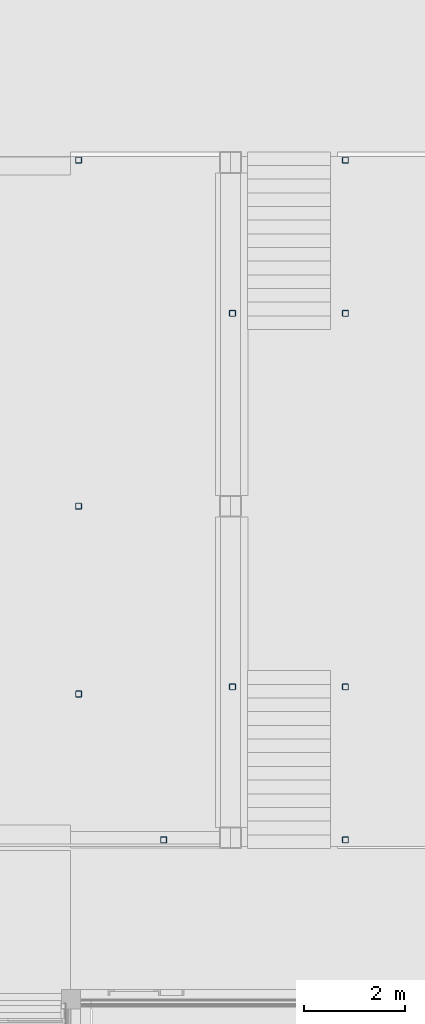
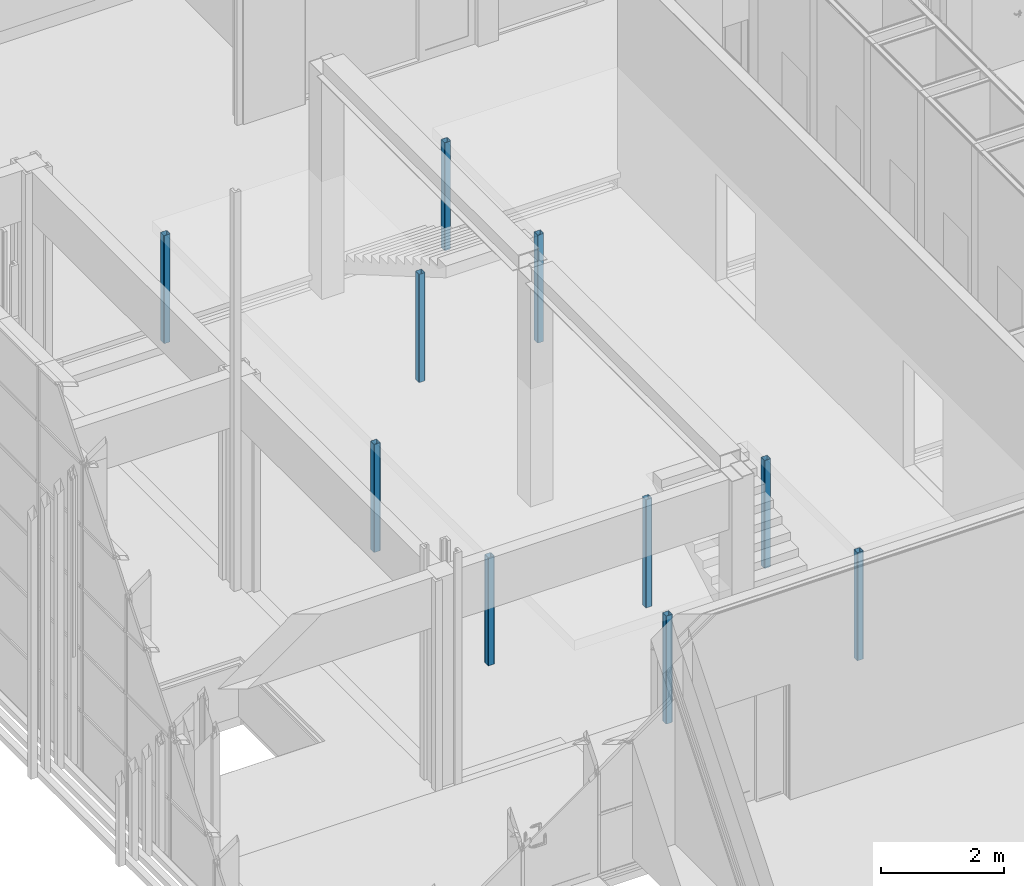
# One storey, part 65 of 260: 10 columns.
"""IFC2X3 building model written with IfcOpenShell, lengths in millimetres."""

from ifc_helpers import new_model, entity, si_unit, converted_unit, derived_unit, money_unit, direction, frame, origin_with_axes, place, context, subcontext, project, spatial, faceted_brep, material, type_object, element, save


model = new_model("IFC2X3")

# Units and contexts
model_context = context("Model", 3, precision=0.01, world=origin_with_axes(), true_north=direction((0.0, 1.0)))
body_context = subcontext(model_context, "Body", "Model", "MODEL_VIEW")
ifc_project = project(units=[si_unit("LENGTHUNIT", "METRE", prefix="MILLI"), si_unit("AREAUNIT", "SQUARE_METRE"), si_unit("VOLUMEUNIT", "CUBIC_METRE"), converted_unit("PLANEANGLEUNIT", "DEGREE", entity("IfcPlaneAngleMeasure", 0.0174532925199), si_unit("PLANEANGLEUNIT", "RADIAN"), dimensions=[0, 0, 0, 0, 0, 0, 0]), money_unit("EUR"), converted_unit("TIMEUNIT", "Year", entity("IfcTimeMeasure", 31556926.0), si_unit("TIMEUNIT", "SECOND"), dimensions=[0, 0, 1, 0, 0, 0, 0]), si_unit("MASSUNIT", "GRAM", prefix="KILO"), si_unit("THERMODYNAMICTEMPERATUREUNIT", "DEGREE_CELSIUS"), si_unit("LUMINOUSINTENSITYUNIT", "LUMEN"), si_unit("ENERGYUNIT", "JOULE", prefix="MEGA"), derived_unit("THERMALCONDUCTANCEUNIT", [(si_unit("POWERUNIT", "WATT"), 1), (si_unit("LENGTHUNIT", "METRE"), -1), (si_unit("THERMODYNAMICTEMPERATUREUNIT", "KELVIN"), -1)]), derived_unit("SPECIFICHEATCAPACITYUNIT", [(si_unit("ENERGYUNIT", "JOULE"), 1), (si_unit("MASSUNIT", "GRAM", prefix="KILO"), -1), (si_unit("THERMODYNAMICTEMPERATUREUNIT", "KELVIN"), -1)]), derived_unit("MASSDENSITYUNIT", [(si_unit("MASSUNIT", "GRAM", prefix="KILO"), 1), (si_unit("VOLUMEUNIT", "CUBIC_METRE"), -1)])], contexts=[model_context])

# Site, building, storey
site_placement = place(None, origin_with_axes())
site = spatial("IfcSite", under=ifc_project, at=site_placement, Name="Kolde pst 67a", CompositionType="ELEMENT")
building_placement = place(site_placement, origin_with_axes())
building = spatial("IfcBuilding", under=site, at=building_placement, Name="Riigigümnaasium", CompositionType="ELEMENT")
storey_placement = place(building_placement, origin_with_axes())
storey = spatial("IfcBuildingStorey", under=building, at=storey_placement, Name="1. korrus", CompositionType="ELEMENT", Elevation=0.0)

# Columns
ifc_material = material(Name="Teras, S355")
column_type = type_object("IfcColumnType", Name="SHS120x120x5 120 x 120", PredefinedType="COLUMN")
column_1_placement = place(storey_placement, frame((55329.9820755, 24284.9937129, -300.0), z_axis=(0.0, 0.0, 1.0), x_axis=(1.0, 0.0, 0.0)))
element("IfcColumn", 1, at=column_1_placement, inside=storey, type_object=column_type, material=ifc_material, Name="POST", ObjectType="COLUMN", context=body_context, shape_type="Brep", body=[
    faceted_brep([(-50.0, -60.0, 2145.0), (-50.0, -60.0, 0.0), (50.0, -60.0, 0.0), (50.0, -60.0, 2145.0), (-57.0710678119, -57.0710678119, 2145.0), (-57.0710678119, -57.0710678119, 0.0), (-60.0, -50.0, 0.0), (-60.0, 50.0, 0.0), (-57.0710678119, 57.0710678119, 0.0), (-50.0, 60.0, 0.0), (50.0, 60.0, 0.0), (57.0710678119, 57.0710678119, 0.0), (60.0, 50.0, 0.0), (60.0, -50.0, 0.0), (57.0710678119, -57.0710678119, 0.0), (-53.5355339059, -53.5355339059, 0.0), (-50.0, -55.0, 0.0), (50.0, -55.0, 0.0), (53.5355339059, -53.5355339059, 0.0), (55.0, -50.0, 0.0), (55.0, 50.0, 0.0), (53.5355339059, 53.5355339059, 0.0), (50.0, 55.0, 0.0), (-50.0, 55.0, 0.0), (-53.5355339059, 53.5355339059, 0.0), (-55.0, 50.0, 0.0), (-55.0, -50.0, 0.0), (57.0710678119, -57.0710678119, 2145.0), (60.0, -50.0, 2145.0), (60.0, 50.0, 2145.0), (57.0710678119, 57.0710678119, 2145.0), (50.0, 60.0, 2145.0), (-50.0, 60.0, 2145.0), (-57.0710678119, 57.0710678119, 2145.0), (-60.0, 50.0, 2145.0), (-60.0, -50.0, 2145.0), (50.0, -55.0, 2145.0), (-50.0, -55.0, 2145.0), (-53.5355339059, -53.5355339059, 2145.0), (-55.0, -50.0, 2145.0), (-55.0, 50.0, 2145.0), (-53.5355339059, 53.5355339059, 2145.0), (-50.0, 55.0, 2145.0), (50.0, 55.0, 2145.0), (53.5355339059, 53.5355339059, 2145.0), (55.0, 50.0, 2145.0), (55.0, -50.0, 2145.0), (53.5355339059, -53.5355339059, 2145.0)], [[[0, 1, 2, 3]], [[4, 5, 1, 0]], [[2, 1, 5, 6, 7, 8, 9, 10, 11, 12, 13, 14], [15, 16, 17, 18, 19, 20, 21, 22, 23, 24, 25, 26]], [[3, 2, 14, 27]], [[4, 0, 3, 27, 28, 29, 30, 31, 32, 33, 34, 35], [36, 37, 38, 39, 40, 41, 42, 43, 44, 45, 46, 47]], [[35, 6, 5, 4]], [[34, 7, 6, 35]], [[33, 8, 7, 34]], [[32, 9, 8, 33]], [[31, 10, 9, 32]], [[30, 11, 10, 31]], [[29, 12, 11, 30]], [[28, 13, 12, 29]], [[27, 14, 13, 28]], [[37, 16, 15, 38]], [[36, 17, 16, 37]], [[47, 18, 17, 36]], [[46, 19, 18, 47]], [[45, 20, 19, 46]], [[44, 21, 20, 45]], [[43, 22, 21, 44]], [[42, 23, 22, 43]], [[41, 24, 23, 42]], [[40, 25, 24, 41]], [[39, 26, 25, 40]], [[38, 15, 26, 39]]]),
])
column_2_placement = place(storey_placement, frame((57009.9073139, 10860.0386448, -300.0), z_axis=(0.0, 0.0, 1.0), x_axis=(1.0, 0.0, 0.0)))
element("IfcColumn", 2, at=column_2_placement, inside=storey, type_object=column_type, material=ifc_material, Name="POST", ObjectType="COLUMN", context=body_context, shape_type="Brep", body=[
    faceted_brep([(-50.0, -60.0, 2145.0), (-50.0, -60.0, 0.0), (50.0, -60.0, 0.0), (50.0, -60.0, 2145.0), (-57.0710678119, -57.0710678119, 2145.0), (-57.0710678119, -57.0710678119, 0.0), (-60.0, -50.0, 0.0), (-60.0, 50.0, 0.0), (-57.0710678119, 57.0710678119, 0.0), (-50.0, 60.0, 0.0), (50.0, 60.0, 0.0), (57.0710678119, 57.0710678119, 0.0), (60.0, 50.0, 0.0), (60.0, -50.0, 0.0), (57.0710678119, -57.0710678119, 0.0), (-53.5355339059, -53.5355339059, 0.0), (-50.0, -55.0, 0.0), (50.0, -55.0, 0.0), (53.5355339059, -53.5355339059, 0.0), (55.0, -50.0, 0.0), (55.0, 50.0, 0.0), (53.5355339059, 53.5355339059, 0.0), (50.0, 55.0, 0.0), (-50.0, 55.0, 0.0), (-53.5355339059, 53.5355339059, 0.0), (-55.0, 50.0, 0.0), (-55.0, -50.0, 0.0), (57.0710678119, -57.0710678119, 2145.0), (60.0, -50.0, 2145.0), (60.0, 50.0, 2145.0), (57.0710678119, 57.0710678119, 2145.0), (50.0, 60.0, 2145.0), (-50.0, 60.0, 2145.0), (-57.0710678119, 57.0710678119, 2145.0), (-60.0, 50.0, 2145.0), (-60.0, -50.0, 2145.0), (50.0, -55.0, 2145.0), (-50.0, -55.0, 2145.0), (-53.5355339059, -53.5355339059, 2145.0), (-55.0, -50.0, 2145.0), (-55.0, 50.0, 2145.0), (-53.5355339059, 53.5355339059, 2145.0), (-50.0, 55.0, 2145.0), (50.0, 55.0, 2145.0), (53.5355339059, 53.5355339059, 2145.0), (55.0, 50.0, 2145.0), (55.0, -50.0, 2145.0), (53.5355339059, -53.5355339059, 2145.0)], [[[0, 1, 2, 3]], [[4, 5, 1, 0]], [[2, 1, 5, 6, 7, 8, 9, 10, 11, 12, 13, 14], [15, 16, 17, 18, 19, 20, 21, 22, 23, 24, 25, 26]], [[3, 2, 14, 27]], [[4, 0, 3, 27, 28, 29, 30, 31, 32, 33, 34, 35], [36, 37, 38, 39, 40, 41, 42, 43, 44, 45, 46, 47]], [[35, 6, 5, 4]], [[34, 7, 6, 35]], [[33, 8, 7, 34]], [[32, 9, 8, 33]], [[31, 10, 9, 32]], [[30, 11, 10, 31]], [[29, 12, 11, 30]], [[28, 13, 12, 29]], [[27, 14, 13, 28]], [[37, 16, 15, 38]], [[36, 17, 16, 37]], [[47, 18, 17, 36]], [[46, 19, 18, 47]], [[45, 20, 19, 46]], [[44, 21, 20, 45]], [[43, 22, 21, 44]], [[42, 23, 22, 43]], [[41, 24, 23, 42]], [[40, 25, 24, 41]], [[39, 26, 25, 40]], [[38, 15, 26, 39]]]),
])
column_3_placement = place(storey_placement, frame((55330.0097011, 17450.0000019, -300.0), z_axis=(0.0, 0.0, 1.0), x_axis=(1.0, 0.0, 0.0)))
element("IfcColumn", 3, at=column_3_placement, inside=storey, type_object=column_type, material=ifc_material, Name="POST", ObjectType="COLUMN", context=body_context, shape_type="Brep", body=[
    faceted_brep([(-50.0, -60.0, 2145.0), (-50.0, -60.0, 0.0), (50.0, -60.0, 0.0), (50.0, -60.0, 2145.0), (-57.0710678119, -57.0710678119, 2145.0), (-57.0710678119, -57.0710678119, 0.0), (-60.0, -50.0, 0.0), (-60.0, 50.0, 0.0), (-57.0710678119, 57.0710678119, 0.0), (-50.0, 60.0, 0.0), (50.0, 60.0, 0.0), (57.0710678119, 57.0710678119, 0.0), (60.0, 50.0, 0.0), (60.0, -50.0, 0.0), (57.0710678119, -57.0710678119, 0.0), (-53.5355339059, -53.5355339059, 0.0), (-50.0, -55.0, 0.0), (50.0, -55.0, 0.0), (53.5355339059, -53.5355339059, 0.0), (55.0, -50.0, 0.0), (55.0, 50.0, 0.0), (53.5355339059, 53.5355339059, 0.0), (50.0, 55.0, 0.0), (-50.0, 55.0, 0.0), (-53.5355339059, 53.5355339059, 0.0), (-55.0, 50.0, 0.0), (-55.0, -50.0, 0.0), (57.0710678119, -57.0710678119, 2145.0), (60.0, -50.0, 2145.0), (60.0, 50.0, 2145.0), (57.0710678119, 57.0710678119, 2145.0), (50.0, 60.0, 2145.0), (-50.0, 60.0, 2145.0), (-57.0710678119, 57.0710678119, 2145.0), (-60.0, 50.0, 2145.0), (-60.0, -50.0, 2145.0), (50.0, -55.0, 2145.0), (-50.0, -55.0, 2145.0), (-53.5355339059, -53.5355339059, 2145.0), (-55.0, -50.0, 2145.0), (-55.0, 50.0, 2145.0), (-53.5355339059, 53.5355339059, 2145.0), (-50.0, 55.0, 2145.0), (50.0, 55.0, 2145.0), (53.5355339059, 53.5355339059, 2145.0), (55.0, 50.0, 2145.0), (55.0, -50.0, 2145.0), (53.5355339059, -53.5355339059, 2145.0)], [[[0, 1, 2, 3]], [[4, 5, 1, 0]], [[2, 1, 5, 6, 7, 8, 9, 10, 11, 12, 13, 14], [15, 16, 17, 18, 19, 20, 21, 22, 23, 24, 25, 26]], [[3, 2, 14, 27]], [[4, 0, 3, 27, 28, 29, 30, 31, 32, 33, 34, 35], [36, 37, 38, 39, 40, 41, 42, 43, 44, 45, 46, 47]], [[35, 6, 5, 4]], [[34, 7, 6, 35]], [[33, 8, 7, 34]], [[32, 9, 8, 33]], [[31, 10, 9, 32]], [[30, 11, 10, 31]], [[29, 12, 11, 30]], [[28, 13, 12, 29]], [[27, 14, 13, 28]], [[37, 16, 15, 38]], [[36, 17, 16, 37]], [[47, 18, 17, 36]], [[46, 19, 18, 47]], [[45, 20, 19, 46]], [[44, 21, 20, 45]], [[43, 22, 21, 44]], [[42, 23, 22, 43]], [[41, 24, 23, 42]], [[40, 25, 24, 41]], [[39, 26, 25, 40]], [[38, 15, 26, 39]]]),
])
column_4_placement = place(storey_placement, frame((60600.0097011, 24284.9937148, -300.0), z_axis=(0.0, 0.0, 1.0), x_axis=(1.0, 0.0, 0.0)))
element("IfcColumn", 4, at=column_4_placement, inside=storey, type_object=column_type, material=ifc_material, Name="POST", ObjectType="COLUMN", context=body_context, shape_type="Brep", body=[
    faceted_brep([(-50.0, -60.0, 2145.0), (-50.0, -60.0, 0.0), (50.0, -60.0, 0.0), (50.0, -60.0, 2145.0), (-57.0710678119, -57.0710678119, 2145.0), (-57.0710678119, -57.0710678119, 0.0), (-60.0, -50.0, 0.0), (-60.0, 50.0, 0.0), (-57.0710678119, 57.0710678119, 0.0), (-50.0, 60.0, 0.0), (50.0, 60.0, 0.0), (57.0710678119, 57.0710678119, 0.0), (60.0, 50.0, 0.0), (60.0, -50.0, 0.0), (57.0710678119, -57.0710678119, 0.0), (-53.5355339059, -53.5355339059, 0.0), (-50.0, -55.0, 0.0), (50.0, -55.0, 0.0), (53.5355339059, -53.5355339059, 0.0), (55.0, -50.0, 0.0), (55.0, 50.0, 0.0), (53.5355339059, 53.5355339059, 0.0), (50.0, 55.0, 0.0), (-50.0, 55.0, 0.0), (-53.5355339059, 53.5355339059, 0.0), (-55.0, 50.0, 0.0), (-55.0, -50.0, 0.0), (57.0710678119, -57.0710678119, 2145.0), (60.0, -50.0, 2145.0), (60.0, 50.0, 2145.0), (57.0710678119, 57.0710678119, 2145.0), (50.0, 60.0, 2145.0), (-50.0, 60.0, 2145.0), (-57.0710678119, 57.0710678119, 2145.0), (-60.0, 50.0, 2145.0), (-60.0, -50.0, 2145.0), (50.0, -55.0, 2145.0), (-50.0, -55.0, 2145.0), (-53.5355339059, -53.5355339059, 2145.0), (-55.0, -50.0, 2145.0), (-55.0, 50.0, 2145.0), (-53.5355339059, 53.5355339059, 2145.0), (-50.0, 55.0, 2145.0), (50.0, 55.0, 2145.0), (53.5355339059, 53.5355339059, 2145.0), (55.0, 50.0, 2145.0), (55.0, -50.0, 2145.0), (53.5355339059, -53.5355339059, 2145.0)], [[[0, 1, 2, 3]], [[4, 5, 1, 0]], [[2, 1, 5, 6, 7, 8, 9, 10, 11, 12, 13, 14], [15, 16, 17, 18, 19, 20, 21, 22, 23, 24, 25, 26]], [[3, 2, 14, 27]], [[4, 0, 3, 27, 28, 29, 30, 31, 32, 33, 34, 35], [36, 37, 38, 39, 40, 41, 42, 43, 44, 45, 46, 47]], [[35, 6, 5, 4]], [[34, 7, 6, 35]], [[33, 8, 7, 34]], [[32, 9, 8, 33]], [[31, 10, 9, 32]], [[30, 11, 10, 31]], [[29, 12, 11, 30]], [[28, 13, 12, 29]], [[27, 14, 13, 28]], [[37, 16, 15, 38]], [[36, 17, 16, 37]], [[47, 18, 17, 36]], [[46, 19, 18, 47]], [[45, 20, 19, 46]], [[44, 21, 20, 45]], [[43, 22, 21, 44]], [[42, 23, 22, 43]], [[41, 24, 23, 42]], [[40, 25, 24, 41]], [[39, 26, 25, 40]], [[38, 15, 26, 39]]]),
])
column_5_placement = place(storey_placement, frame((60600.0097011, 10860.0386448, -300.0), z_axis=(0.0, 0.0, 1.0), x_axis=(1.0, 0.0, 0.0)))
element("IfcColumn", 5, at=column_5_placement, inside=storey, type_object=column_type, material=ifc_material, Name="POST", ObjectType="COLUMN", context=body_context, shape_type="Brep", body=[
    faceted_brep([(-50.0, -60.0, 2145.0), (-50.0, -60.0, 0.0), (50.0, -60.0, 0.0), (50.0, -60.0, 2145.0), (-57.0710678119, -57.0710678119, 2145.0), (-57.0710678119, -57.0710678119, 0.0), (-60.0, -50.0, 0.0), (-60.0, 50.0, 0.0), (-57.0710678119, 57.0710678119, 0.0), (-50.0, 60.0, 0.0), (50.0, 60.0, 0.0), (57.0710678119, 57.0710678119, 0.0), (60.0, 50.0, 0.0), (60.0, -50.0, 0.0), (57.0710678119, -57.0710678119, 0.0), (-53.5355339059, -53.5355339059, 0.0), (-50.0, -55.0, 0.0), (50.0, -55.0, 0.0), (53.5355339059, -53.5355339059, 0.0), (55.0, -50.0, 0.0), (55.0, 50.0, 0.0), (53.5355339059, 53.5355339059, 0.0), (50.0, 55.0, 0.0), (-50.0, 55.0, 0.0), (-53.5355339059, 53.5355339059, 0.0), (-55.0, 50.0, 0.0), (-55.0, -50.0, 0.0), (57.0710678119, -57.0710678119, 2145.0), (60.0, -50.0, 2145.0), (60.0, 50.0, 2145.0), (57.0710678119, 57.0710678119, 2145.0), (50.0, 60.0, 2145.0), (-50.0, 60.0, 2145.0), (-57.0710678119, 57.0710678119, 2145.0), (-60.0, 50.0, 2145.0), (-60.0, -50.0, 2145.0), (50.0, -55.0, 2145.0), (-50.0, -55.0, 2145.0), (-53.5355339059, -53.5355339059, 2145.0), (-55.0, -50.0, 2145.0), (-55.0, 50.0, 2145.0), (-53.5355339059, 53.5355339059, 2145.0), (-50.0, 55.0, 2145.0), (50.0, 55.0, 2145.0), (53.5355339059, 53.5355339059, 2145.0), (55.0, 50.0, 2145.0), (55.0, -50.0, 2145.0), (53.5355339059, -53.5355339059, 2145.0)], [[[0, 1, 2, 3]], [[4, 5, 1, 0]], [[2, 1, 5, 6, 7, 8, 9, 10, 11, 12, 13, 14], [15, 16, 17, 18, 19, 20, 21, 22, 23, 24, 25, 26]], [[3, 2, 14, 27]], [[4, 0, 3, 27, 28, 29, 30, 31, 32, 33, 34, 35], [36, 37, 38, 39, 40, 41, 42, 43, 44, 45, 46, 47]], [[35, 6, 5, 4]], [[34, 7, 6, 35]], [[33, 8, 7, 34]], [[32, 9, 8, 33]], [[31, 10, 9, 32]], [[30, 11, 10, 31]], [[29, 12, 11, 30]], [[28, 13, 12, 29]], [[27, 14, 13, 28]], [[37, 16, 15, 38]], [[36, 17, 16, 37]], [[47, 18, 17, 36]], [[46, 19, 18, 47]], [[45, 20, 19, 46]], [[44, 21, 20, 45]], [[43, 22, 21, 44]], [[42, 23, 22, 43]], [[41, 24, 23, 42]], [[40, 25, 24, 41]], [[39, 26, 25, 40]], [[38, 15, 26, 39]]]),
])
column_6_placement = place(storey_placement, frame((58370.0097011, 21260.2738355, -300.0), z_axis=(0.0, 0.0, 1.0), x_axis=(1.0, 0.0, 0.0)))
element("IfcColumn", 6, at=column_6_placement, inside=storey, type_object=column_type, material=ifc_material, Name="POST", ObjectType="COLUMN", context=body_context, shape_type="Brep", body=[
    faceted_brep([(-50.0, -60.0, 2145.0), (-50.0, -60.0, 0.0), (50.0, -60.0, 0.0), (50.0, -60.0, 2145.0), (-57.0710678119, -57.0710678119, 2145.0), (-57.0710678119, -57.0710678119, 0.0), (-60.0, -50.0, 0.0), (-60.0, 50.0, 0.0), (-57.0710678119, 57.0710678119, 0.0), (-50.0, 60.0, 0.0), (50.0, 60.0, 0.0), (57.0710678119, 57.0710678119, 0.0), (60.0, 50.0, 0.0), (60.0, -50.0, 0.0), (57.0710678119, -57.0710678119, 0.0), (-53.5355339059, -53.5355339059, 0.0), (-50.0, -55.0, 0.0), (50.0, -55.0, 0.0), (53.5355339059, -53.5355339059, 0.0), (55.0, -50.0, 0.0), (55.0, 50.0, 0.0), (53.5355339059, 53.5355339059, 0.0), (50.0, 55.0, 0.0), (-50.0, 55.0, 0.0), (-53.5355339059, 53.5355339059, 0.0), (-55.0, 50.0, 0.0), (-55.0, -50.0, 0.0), (57.0710678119, -57.0710678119, 2145.0), (60.0, -50.0, 2145.0), (60.0, 50.0, 2145.0), (57.0710678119, 57.0710678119, 2145.0), (50.0, 60.0, 2145.0), (-50.0, 60.0, 2145.0), (-57.0710678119, 57.0710678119, 2145.0), (-60.0, 50.0, 2145.0), (-60.0, -50.0, 2145.0), (50.0, -55.0, 2145.0), (-50.0, -55.0, 2145.0), (-53.5355339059, -53.5355339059, 2145.0), (-55.0, -50.0, 2145.0), (-55.0, 50.0, 2145.0), (-53.5355339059, 53.5355339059, 2145.0), (-50.0, 55.0, 2145.0), (50.0, 55.0, 2145.0), (53.5355339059, 53.5355339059, 2145.0), (55.0, 50.0, 2145.0), (55.0, -50.0, 2145.0), (53.5355339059, -53.5355339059, 2145.0)], [[[0, 1, 2, 3]], [[4, 5, 1, 0]], [[2, 1, 5, 6, 7, 8, 9, 10, 11, 12, 13, 14], [15, 16, 17, 18, 19, 20, 21, 22, 23, 24, 25, 26]], [[3, 2, 14, 27]], [[4, 0, 3, 27, 28, 29, 30, 31, 32, 33, 34, 35], [36, 37, 38, 39, 40, 41, 42, 43, 44, 45, 46, 47]], [[35, 6, 5, 4]], [[34, 7, 6, 35]], [[33, 8, 7, 34]], [[32, 9, 8, 33]], [[31, 10, 9, 32]], [[30, 11, 10, 31]], [[29, 12, 11, 30]], [[28, 13, 12, 29]], [[27, 14, 13, 28]], [[37, 16, 15, 38]], [[36, 17, 16, 37]], [[47, 18, 17, 36]], [[46, 19, 18, 47]], [[45, 20, 19, 46]], [[44, 21, 20, 45]], [[43, 22, 21, 44]], [[42, 23, 22, 43]], [[41, 24, 23, 42]], [[40, 25, 24, 41]], [[39, 26, 25, 40]], [[38, 15, 26, 39]]]),
])
column_7_placement = place(storey_placement, frame((60600.0097011, 21260.2738355, -300.0), z_axis=(0.0, 0.0, 1.0), x_axis=(1.0, 0.0, 0.0)))
element("IfcColumn", 7, at=column_7_placement, inside=storey, type_object=column_type, material=ifc_material, Name="POST", ObjectType="COLUMN", context=body_context, shape_type="Brep", body=[
    faceted_brep([(-50.0, -60.0, 2145.0), (-50.0, -60.0, 0.0), (50.0, -60.0, 0.0), (50.0, -60.0, 2145.0), (-57.0710678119, -57.0710678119, 2145.0), (-57.0710678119, -57.0710678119, 0.0), (-60.0, -50.0, 0.0), (-60.0, 50.0, 0.0), (-57.0710678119, 57.0710678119, 0.0), (-50.0, 60.0, 0.0), (50.0, 60.0, 0.0), (57.0710678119, 57.0710678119, 0.0), (60.0, 50.0, 0.0), (60.0, -50.0, 0.0), (57.0710678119, -57.0710678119, 0.0), (-53.5355339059, -53.5355339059, 0.0), (-50.0, -55.0, 0.0), (50.0, -55.0, 0.0), (53.5355339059, -53.5355339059, 0.0), (55.0, -50.0, 0.0), (55.0, 50.0, 0.0), (53.5355339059, 53.5355339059, 0.0), (50.0, 55.0, 0.0), (-50.0, 55.0, 0.0), (-53.5355339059, 53.5355339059, 0.0), (-55.0, 50.0, 0.0), (-55.0, -50.0, 0.0), (57.0710678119, -57.0710678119, 2145.0), (60.0, -50.0, 2145.0), (60.0, 50.0, 2145.0), (57.0710678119, 57.0710678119, 2145.0), (50.0, 60.0, 2145.0), (-50.0, 60.0, 2145.0), (-57.0710678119, 57.0710678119, 2145.0), (-60.0, 50.0, 2145.0), (-60.0, -50.0, 2145.0), (50.0, -55.0, 2145.0), (-50.0, -55.0, 2145.0), (-53.5355339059, -53.5355339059, 2145.0), (-55.0, -50.0, 2145.0), (-55.0, 50.0, 2145.0), (-53.5355339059, 53.5355339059, 2145.0), (-50.0, 55.0, 2145.0), (50.0, 55.0, 2145.0), (53.5355339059, 53.5355339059, 2145.0), (55.0, 50.0, 2145.0), (55.0, -50.0, 2145.0), (53.5355339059, -53.5355339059, 2145.0)], [[[0, 1, 2, 3]], [[4, 5, 1, 0]], [[2, 1, 5, 6, 7, 8, 9, 10, 11, 12, 13, 14], [15, 16, 17, 18, 19, 20, 21, 22, 23, 24, 25, 26]], [[3, 2, 14, 27]], [[4, 0, 3, 27, 28, 29, 30, 31, 32, 33, 34, 35], [36, 37, 38, 39, 40, 41, 42, 43, 44, 45, 46, 47]], [[35, 6, 5, 4]], [[34, 7, 6, 35]], [[33, 8, 7, 34]], [[32, 9, 8, 33]], [[31, 10, 9, 32]], [[30, 11, 10, 31]], [[29, 12, 11, 30]], [[28, 13, 12, 29]], [[27, 14, 13, 28]], [[37, 16, 15, 38]], [[36, 17, 16, 37]], [[47, 18, 17, 36]], [[46, 19, 18, 47]], [[45, 20, 19, 46]], [[44, 21, 20, 45]], [[43, 22, 21, 44]], [[42, 23, 22, 43]], [[41, 24, 23, 42]], [[40, 25, 24, 41]], [[39, 26, 25, 40]], [[38, 15, 26, 39]]]),
])
column_8_placement = place(storey_placement, frame((58370.0097011, 13879.9619407, -300.0), z_axis=(0.0, 0.0, 1.0), x_axis=(1.0, 0.0, 0.0)))
element("IfcColumn", 8, at=column_8_placement, inside=storey, type_object=column_type, material=ifc_material, Name="POST", ObjectType="COLUMN", context=body_context, shape_type="Brep", body=[
    faceted_brep([(-50.0, -60.0, 2145.0), (-50.0, -60.0, 0.0), (50.0, -60.0, 0.0), (50.0, -60.0, 2145.0), (-57.0710678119, -57.0710678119, 2145.0), (-57.0710678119, -57.0710678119, 0.0), (-60.0, -50.0, 0.0), (-60.0, 50.0, 0.0), (-57.0710678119, 57.0710678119, 0.0), (-50.0, 60.0, 0.0), (50.0, 60.0, 0.0), (57.0710678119, 57.0710678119, 0.0), (60.0, 50.0, 0.0), (60.0, -50.0, 0.0), (57.0710678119, -57.0710678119, 0.0), (-53.5355339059, -53.5355339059, 0.0), (-50.0, -55.0, 0.0), (50.0, -55.0, 0.0), (53.5355339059, -53.5355339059, 0.0), (55.0, -50.0, 0.0), (55.0, 50.0, 0.0), (53.5355339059, 53.5355339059, 0.0), (50.0, 55.0, 0.0), (-50.0, 55.0, 0.0), (-53.5355339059, 53.5355339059, 0.0), (-55.0, 50.0, 0.0), (-55.0, -50.0, 0.0), (57.0710678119, -57.0710678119, 2145.0), (60.0, -50.0, 2145.0), (60.0, 50.0, 2145.0), (57.0710678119, 57.0710678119, 2145.0), (50.0, 60.0, 2145.0), (-50.0, 60.0, 2145.0), (-57.0710678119, 57.0710678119, 2145.0), (-60.0, 50.0, 2145.0), (-60.0, -50.0, 2145.0), (50.0, -55.0, 2145.0), (-50.0, -55.0, 2145.0), (-53.5355339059, -53.5355339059, 2145.0), (-55.0, -50.0, 2145.0), (-55.0, 50.0, 2145.0), (-53.5355339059, 53.5355339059, 2145.0), (-50.0, 55.0, 2145.0), (50.0, 55.0, 2145.0), (53.5355339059, 53.5355339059, 2145.0), (55.0, 50.0, 2145.0), (55.0, -50.0, 2145.0), (53.5355339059, -53.5355339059, 2145.0)], [[[0, 1, 2, 3]], [[4, 5, 1, 0]], [[2, 1, 5, 6, 7, 8, 9, 10, 11, 12, 13, 14], [15, 16, 17, 18, 19, 20, 21, 22, 23, 24, 25, 26]], [[3, 2, 14, 27]], [[4, 0, 3, 27, 28, 29, 30, 31, 32, 33, 34, 35], [36, 37, 38, 39, 40, 41, 42, 43, 44, 45, 46, 47]], [[35, 6, 5, 4]], [[34, 7, 6, 35]], [[33, 8, 7, 34]], [[32, 9, 8, 33]], [[31, 10, 9, 32]], [[30, 11, 10, 31]], [[29, 12, 11, 30]], [[28, 13, 12, 29]], [[27, 14, 13, 28]], [[37, 16, 15, 38]], [[36, 17, 16, 37]], [[47, 18, 17, 36]], [[46, 19, 18, 47]], [[45, 20, 19, 46]], [[44, 21, 20, 45]], [[43, 22, 21, 44]], [[42, 23, 22, 43]], [[41, 24, 23, 42]], [[40, 25, 24, 41]], [[39, 26, 25, 40]], [[38, 15, 26, 39]]]),
])
column_9_placement = place(storey_placement, frame((60600.0097011, 13879.9619407, -300.0), z_axis=(0.0, 0.0, 1.0), x_axis=(1.0, 0.0, 0.0)))
element("IfcColumn", 9, at=column_9_placement, inside=storey, type_object=column_type, material=ifc_material, Name="POST", ObjectType="COLUMN", context=body_context, shape_type="Brep", body=[
    faceted_brep([(-50.0, -60.0, 2145.0), (-50.0, -60.0, 0.0), (50.0, -60.0, 0.0), (50.0, -60.0, 2145.0), (-57.0710678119, -57.0710678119, 2145.0), (-57.0710678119, -57.0710678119, 0.0), (-60.0, -50.0, 0.0), (-60.0, 50.0, 0.0), (-57.0710678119, 57.0710678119, 0.0), (-50.0, 60.0, 0.0), (50.0, 60.0, 0.0), (57.0710678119, 57.0710678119, 0.0), (60.0, 50.0, 0.0), (60.0, -50.0, 0.0), (57.0710678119, -57.0710678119, 0.0), (-53.5355339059, -53.5355339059, 0.0), (-50.0, -55.0, 0.0), (50.0, -55.0, 0.0), (53.5355339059, -53.5355339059, 0.0), (55.0, -50.0, 0.0), (55.0, 50.0, 0.0), (53.5355339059, 53.5355339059, 0.0), (50.0, 55.0, 0.0), (-50.0, 55.0, 0.0), (-53.5355339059, 53.5355339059, 0.0), (-55.0, 50.0, 0.0), (-55.0, -50.0, 0.0), (57.0710678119, -57.0710678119, 2145.0), (60.0, -50.0, 2145.0), (60.0, 50.0, 2145.0), (57.0710678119, 57.0710678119, 2145.0), (50.0, 60.0, 2145.0), (-50.0, 60.0, 2145.0), (-57.0710678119, 57.0710678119, 2145.0), (-60.0, 50.0, 2145.0), (-60.0, -50.0, 2145.0), (50.0, -55.0, 2145.0), (-50.0, -55.0, 2145.0), (-53.5355339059, -53.5355339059, 2145.0), (-55.0, -50.0, 2145.0), (-55.0, 50.0, 2145.0), (-53.5355339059, 53.5355339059, 2145.0), (-50.0, 55.0, 2145.0), (50.0, 55.0, 2145.0), (53.5355339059, 53.5355339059, 2145.0), (55.0, 50.0, 2145.0), (55.0, -50.0, 2145.0), (53.5355339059, -53.5355339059, 2145.0)], [[[0, 1, 2, 3]], [[4, 5, 1, 0]], [[2, 1, 5, 6, 7, 8, 9, 10, 11, 12, 13, 14], [15, 16, 17, 18, 19, 20, 21, 22, 23, 24, 25, 26]], [[3, 2, 14, 27]], [[4, 0, 3, 27, 28, 29, 30, 31, 32, 33, 34, 35], [36, 37, 38, 39, 40, 41, 42, 43, 44, 45, 46, 47]], [[35, 6, 5, 4]], [[34, 7, 6, 35]], [[33, 8, 7, 34]], [[32, 9, 8, 33]], [[31, 10, 9, 32]], [[30, 11, 10, 31]], [[29, 12, 11, 30]], [[28, 13, 12, 29]], [[27, 14, 13, 28]], [[37, 16, 15, 38]], [[36, 17, 16, 37]], [[47, 18, 17, 36]], [[46, 19, 18, 47]], [[45, 20, 19, 46]], [[44, 21, 20, 45]], [[43, 22, 21, 44]], [[42, 23, 22, 43]], [[41, 24, 23, 42]], [[40, 25, 24, 41]], [[39, 26, 25, 40]], [[38, 15, 26, 39]]]),
])
column_10_placement = place(storey_placement, frame((55330.0097011, 13740.0002937, -300.0), z_axis=(0.0, 0.0, 1.0), x_axis=(1.0, 0.0, 0.0)))
element("IfcColumn", 10, at=column_10_placement, inside=storey, type_object=column_type, material=ifc_material, Name="POST", ObjectType="COLUMN", context=body_context, shape_type="Brep", body=[
    faceted_brep([(-50.0, -60.0, 2145.0), (-50.0, -60.0, 0.0), (50.0, -60.0, 0.0), (50.0, -60.0, 2145.0), (-57.0710678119, -57.0710678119, 2145.0), (-57.0710678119, -57.0710678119, 0.0), (-60.0, -50.0, 0.0), (-60.0, 50.0, 0.0), (-57.0710678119, 57.0710678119, 0.0), (-50.0, 60.0, 0.0), (50.0, 60.0, 0.0), (57.0710678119, 57.0710678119, 0.0), (60.0, 50.0, 0.0), (60.0, -50.0, 0.0), (57.0710678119, -57.0710678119, 0.0), (-53.5355339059, -53.5355339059, 0.0), (-50.0, -55.0, 0.0), (50.0, -55.0, 0.0), (53.5355339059, -53.5355339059, 0.0), (55.0, -50.0, 0.0), (55.0, 50.0, 0.0), (53.5355339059, 53.5355339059, 0.0), (50.0, 55.0, 0.0), (-50.0, 55.0, 0.0), (-53.5355339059, 53.5355339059, 0.0), (-55.0, 50.0, 0.0), (-55.0, -50.0, 0.0), (57.0710678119, -57.0710678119, 2145.0), (60.0, -50.0, 2145.0), (60.0, 50.0, 2145.0), (57.0710678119, 57.0710678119, 2145.0), (50.0, 60.0, 2145.0), (-50.0, 60.0, 2145.0), (-57.0710678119, 57.0710678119, 2145.0), (-60.0, 50.0, 2145.0), (-60.0, -50.0, 2145.0), (50.0, -55.0, 2145.0), (-50.0, -55.0, 2145.0), (-53.5355339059, -53.5355339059, 2145.0), (-55.0, -50.0, 2145.0), (-55.0, 50.0, 2145.0), (-53.5355339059, 53.5355339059, 2145.0), (-50.0, 55.0, 2145.0), (50.0, 55.0, 2145.0), (53.5355339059, 53.5355339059, 2145.0), (55.0, 50.0, 2145.0), (55.0, -50.0, 2145.0), (53.5355339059, -53.5355339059, 2145.0)], [[[0, 1, 2, 3]], [[4, 5, 1, 0]], [[2, 1, 5, 6, 7, 8, 9, 10, 11, 12, 13, 14], [15, 16, 17, 18, 19, 20, 21, 22, 23, 24, 25, 26]], [[3, 2, 14, 27]], [[4, 0, 3, 27, 28, 29, 30, 31, 32, 33, 34, 35], [36, 37, 38, 39, 40, 41, 42, 43, 44, 45, 46, 47]], [[35, 6, 5, 4]], [[34, 7, 6, 35]], [[33, 8, 7, 34]], [[32, 9, 8, 33]], [[31, 10, 9, 32]], [[30, 11, 10, 31]], [[29, 12, 11, 30]], [[28, 13, 12, 29]], [[27, 14, 13, 28]], [[37, 16, 15, 38]], [[36, 17, 16, 37]], [[47, 18, 17, 36]], [[46, 19, 18, 47]], [[45, 20, 19, 46]], [[44, 21, 20, 45]], [[43, 22, 21, 44]], [[42, 23, 22, 43]], [[41, 24, 23, 42]], [[40, 25, 24, 41]], [[39, 26, 25, 40]], [[38, 15, 26, 39]]]),
])

save(model, "model.ifc")
